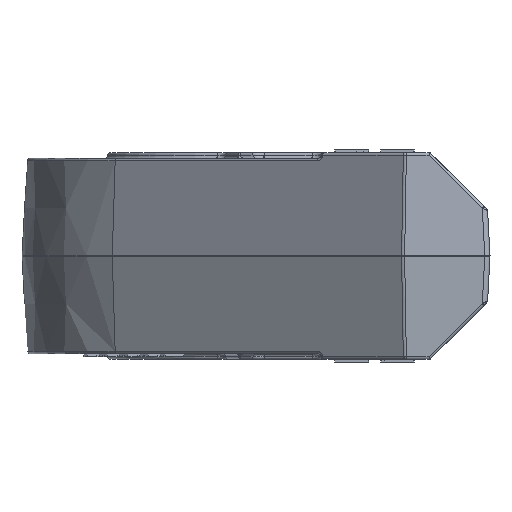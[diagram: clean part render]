
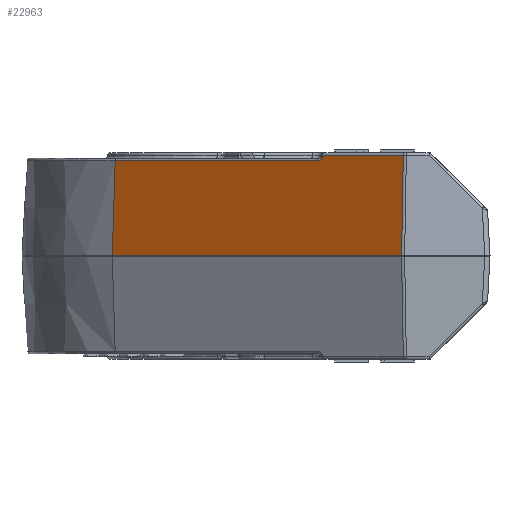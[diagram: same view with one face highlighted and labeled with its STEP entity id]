
A CAD part, left-side view. The second image highlights one B-rep face of the part: STEP entity #22963.
In plain terms, the highlighted planar face has unit normal (-0.81, 0.585, 0.052).
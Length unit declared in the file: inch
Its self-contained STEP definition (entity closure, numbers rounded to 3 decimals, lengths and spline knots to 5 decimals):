
#603 = CARTESIAN_POINT ( 'NONE',  ( -1.84766, -0.47511, 0.57561 ) ) ;
#2388 =( BOUNDED_CURVE ( )  B_SPLINE_CURVE ( 3, ( #4288, #4623, #39098, #7826 ),
 .UNSPECIFIED., .F., .F. ) 
 B_SPLINE_CURVE_WITH_KNOTS ( ( 4, 4 ),
 ( 0., 0.08929 ),
 .UNSPECIFIED. ) 
 CURVE ( )  GEOMETRIC_REPRESENTATION_ITEM ( )  RATIONAL_B_SPLINE_CURVE ( ( 1., 0.999, 0.999, 1. ) ) 
 REPRESENTATION_ITEM ( '' )  );
#2573 = CARTESIAN_POINT ( 'NONE',  ( -1.82785, -0.44523, 0.54829 ) ) ;
#2910 = VERTEX_POINT ( 'NONE', #48360 ) ;
#3478 = EDGE_CURVE ( 'NONE', #28681, #4580, #41854, .T. ) ;
#4288 = CARTESIAN_POINT ( 'NONE',  ( -1.84766, -0.47511, 0.57561 ) ) ;
#4580 = VERTEX_POINT ( 'NONE', #27044 ) ;
#4623 = CARTESIAN_POINT ( 'NONE',  ( -1.84766, -0.47519, 0.5765 ) ) ;
#4856 = EDGE_CURVE ( 'NONE', #20191, #28681, #24873, .T. ) ;
#5122 = FACE_OUTER_BOUND ( 'NONE', #48514, .T. ) ;
#7790 = VECTOR ( 'NONE', #25205, 39.37008 ) ;
#7826 = CARTESIAN_POINT ( 'NONE',  ( -1.84758, -0.47523, 0.57829 ) ) ;
#8238 = DIRECTION ( 'NONE',  ( 0., 0.089, -0.996 ) ) ;
#9732 = VECTOR ( 'NONE', #20181, 39.37008 ) ;
#10198 = LINE ( 'NONE', #18342, #16270 ) ;
#11617 = DIRECTION ( 'NONE',  ( 0.81, -0.585, -0.052 ) ) ;
#12903 = EDGE_CURVE ( 'NONE', #18196, #20191, #41010, .T. ) ;
#12935 = CARTESIAN_POINT ( 'NONE',  ( -1.01335, 0.73172, 0.00157 ) ) ;
#15651 = VERTEX_POINT ( 'NONE', #22572 ) ;
#15677 = ORIENTED_EDGE ( 'NONE', *, *, #31484, .T. ) ;
#16270 = VECTOR ( 'NONE', #37817, 39.37008 ) ;
#16628 = VERTEX_POINT ( 'NONE', #603 ) ;
#16639 = EDGE_CURVE ( 'NONE', #16628, #15651, #2388, .T. ) ;
#16913 = EDGE_CURVE ( 'NONE', #2910, #16628, #48004, .T. ) ;
#16951 = VECTOR ( 'NONE', #21707, 39.37008 ) ;
#17903 = CARTESIAN_POINT ( 'NONE',  ( -1.84766, -0.47365, 0.55932 ) ) ;
#18196 = VERTEX_POINT ( 'NONE', #19309 ) ;
#18342 = CARTESIAN_POINT ( 'NONE',  ( -1.84858, -0.47523, 0.56279 ) ) ;
#19309 = CARTESIAN_POINT ( 'NONE',  ( -0.99013, 0.71494, 0.54829 ) ) ;
#19961 = LINE ( 'NONE', #27065, #9732 ) ;
#20181 = DIRECTION ( 'NONE',  ( 0.585, 0.811, 0. ) ) ;
#20191 = VERTEX_POINT ( 'NONE', #27078 ) ;
#21707 = DIRECTION ( 'NONE',  ( -0.042, 0.031, -0.999 ) ) ;
#22572 = CARTESIAN_POINT ( 'NONE',  ( -1.84758, -0.47523, 0.57829 ) ) ;
#22963 = ADVANCED_FACE ( 'NONE', ( #5122 ), #27395, .F. ) ;
#24514 = ORIENTED_EDGE ( 'NONE', *, *, #4856, .T. ) ;
#24626 = LINE ( 'NONE', #48423, #7790 ) ;
#24731 = CARTESIAN_POINT ( 'NONE',  ( -2.18016, -0.94029, 0.6282 ) ) ;
#24873 = LINE ( 'NONE', #12935, #28502 ) ;
#25205 = DIRECTION ( 'NONE',  ( 0.585, 0.811, 0. ) ) ;
#25768 = CARTESIAN_POINT ( 'NONE',  ( -1.83966, -0.46158, 0.54829 ) ) ;
#27044 = CARTESIAN_POINT ( 'NONE',  ( -2.18271, -0.93947, 0.57954 ) ) ;
#27065 = CARTESIAN_POINT ( 'NONE',  ( -0.99013, 0.71494, 0.54829 ) ) ;
#27078 = CARTESIAN_POINT ( 'NONE',  ( -1.01335, 0.73172, 0.00157 ) ) ;
#27282 = EDGE_CURVE ( 'NONE', #36066, #15651, #10198, .T. ) ;
#27344 = CARTESIAN_POINT ( 'NONE',  ( -1.8475, -0.47523, 0.57954 ) ) ;
#27395 = PLANE ( 'NONE',  #38839 ) ;
#28502 = VECTOR ( 'NONE', #39813, 39.37008 ) ;
#28604 = DIRECTION ( 'NONE',  ( 0.052, -0.017, 0.998 ) ) ;
#28681 = VERTEX_POINT ( 'NONE', #34779 ) ;
#28720 = ORIENTED_EDGE ( 'NONE', *, *, #27282, .T. ) ;
#31062 = ORIENTED_EDGE ( 'NONE', *, *, #3478, .T. ) ;
#31262 = CARTESIAN_POINT ( 'NONE',  ( -0.98819, 0.71355, 0.59375 ) ) ;
#31484 = EDGE_CURVE ( 'NONE', #2910, #18196, #19961, .T. ) ;
#32504 = ORIENTED_EDGE ( 'NONE', *, *, #16913, .F. ) ;
#33801 = CARTESIAN_POINT ( 'NONE',  ( -0.98819, 0.71355, 0.59375 ) ) ;
#34779 = CARTESIAN_POINT ( 'NONE',  ( -2.213, -0.92967, 0.00157 ) ) ;
#35830 = VECTOR ( 'NONE', #28604, 39.37008 ) ;
#36066 = VERTEX_POINT ( 'NONE', #27344 ) ;
#37217 = CARTESIAN_POINT ( 'NONE',  ( -1.84766, -0.47511, 0.57561 ) ) ;
#37817 = DIRECTION ( 'NONE',  ( -0.065, 0., -0.998 ) ) ;
#38466 = ORIENTED_EDGE ( 'NONE', *, *, #49351, .T. ) ;
#38839 = AXIS2_PLACEMENT_3D ( 'NONE', #31262, #11617, #8238 ) ;
#39098 = CARTESIAN_POINT ( 'NONE',  ( -1.84763, -0.47523, 0.57739 ) ) ;
#39813 = DIRECTION ( 'NONE',  ( -0.585, -0.811, 0. ) ) ;
#41010 = LINE ( 'NONE', #33801, #16951 ) ;
#41854 = LINE ( 'NONE', #24731, #35830 ) ;
#47249 = ORIENTED_EDGE ( 'NONE', *, *, #16639, .F. ) ;
#48004 =( BOUNDED_CURVE ( )  B_SPLINE_CURVE ( 3, ( #2573, #25768, #17903, #37217 ),
 .UNSPECIFIED., .F., .F. ) 
 B_SPLINE_CURVE_WITH_KNOTS ( ( 4, 4 ),
 ( 4.80167, 6.28319 ),
 .UNSPECIFIED. ) 
 CURVE ( )  GEOMETRIC_REPRESENTATION_ITEM ( )  RATIONAL_B_SPLINE_CURVE ( ( 1., 0.825, 0.825, 1. ) ) 
 REPRESENTATION_ITEM ( '' )  );
#48360 = CARTESIAN_POINT ( 'NONE',  ( -1.82785, -0.44523, 0.54829 ) ) ;
#48423 = CARTESIAN_POINT ( 'NONE',  ( -1.84718, -0.47479, 0.57954 ) ) ;
#48514 = EDGE_LOOP ( 'NONE', ( #24514, #31062, #38466, #28720, #47249, #32504, #15677, #48733 ) ) ;
#48733 = ORIENTED_EDGE ( 'NONE', *, *, #12903, .T. ) ;
#49351 = EDGE_CURVE ( 'NONE', #4580, #36066, #24626, .T. ) ;
